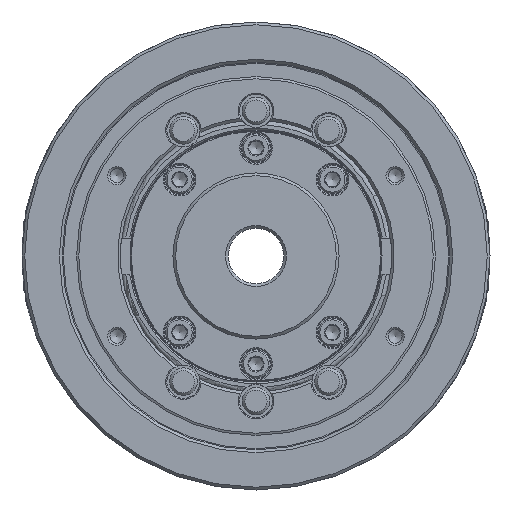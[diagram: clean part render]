
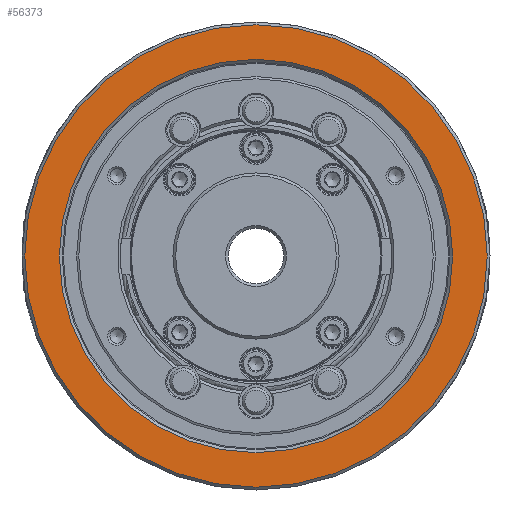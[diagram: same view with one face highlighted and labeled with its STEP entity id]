
A CAD part, left-side view. The second image highlights one B-rep face of the part: STEP entity #56373.
In plain terms, the highlighted planar face has unit normal (-1, 0, 0).
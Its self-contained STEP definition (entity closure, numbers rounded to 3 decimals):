
#1233 = PLANE ( 'NONE',  #55176 ) ;
#5417 = DIRECTION ( 'NONE',  ( 0., 0., 1. ) ) ;
#5855 = CARTESIAN_POINT ( 'NONE',  ( -81., 71., 0. ) ) ;
#6579 = CIRCLE ( 'NONE', #64185, 71. ) ;
#10740 = EDGE_CURVE ( 'NONE', #17249, #17249, #18722, .T. ) ;
#13297 = DIRECTION ( 'NONE',  ( 0., 0., 1. ) ) ;
#17249 = VERTEX_POINT ( 'NONE', #45653 ) ;
#18545 = FACE_OUTER_BOUND ( 'NONE', #71538, .T. ) ;
#18722 = CIRCLE ( 'NONE', #68902, 83.5 ) ;
#20455 = EDGE_CURVE ( 'NONE', #70542, #70542, #6579, .T. ) ;
#20589 = DIRECTION ( 'NONE',  ( 1., 0., 0. ) ) ;
#25054 = FACE_BOUND ( 'NONE', #40009, .T. ) ;
#40009 = EDGE_LOOP ( 'NONE', ( #75764 ) ) ;
#41937 = DIRECTION ( 'NONE',  ( 0., 0., 1. ) ) ;
#45653 = CARTESIAN_POINT ( 'NONE',  ( -81., 0., 83.5 ) ) ;
#47292 = DIRECTION ( 'NONE',  ( 1., 0., 0. ) ) ;
#53365 = DIRECTION ( 'NONE',  ( 1., 0., 0. ) ) ;
#54727 = CARTESIAN_POINT ( 'NONE',  ( -81., 0., 0. ) ) ;
#55176 = AXIS2_PLACEMENT_3D ( 'NONE', #5855, #47292, #41937 ) ;
#56373 = ADVANCED_FACE ( 'NONE', ( #18545, #25054 ), #1233, .F. ) ;
#58650 = CARTESIAN_POINT ( 'NONE',  ( -81., 0., 71. ) ) ;
#61953 = ORIENTED_EDGE ( 'NONE', *, *, #10740, .F. ) ;
#64185 = AXIS2_PLACEMENT_3D ( 'NONE', #54727, #20589, #13297 ) ;
#64862 = CARTESIAN_POINT ( 'NONE',  ( -81., 0., 0. ) ) ;
#68902 = AXIS2_PLACEMENT_3D ( 'NONE', #64862, #53365, #5417 ) ;
#70542 = VERTEX_POINT ( 'NONE', #58650 ) ;
#71538 = EDGE_LOOP ( 'NONE', ( #61953 ) ) ;
#75764 = ORIENTED_EDGE ( 'NONE', *, *, #20455, .T. ) ;
